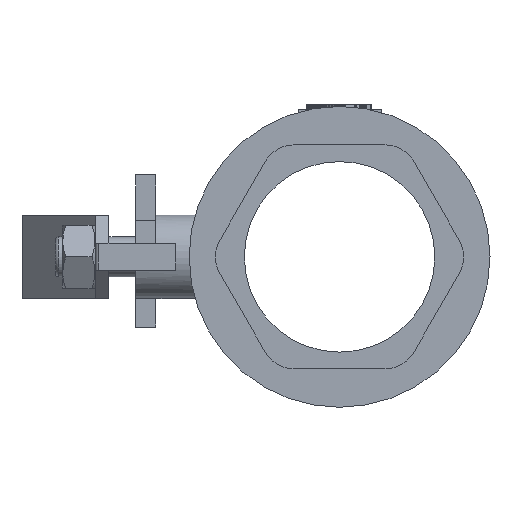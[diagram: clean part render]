
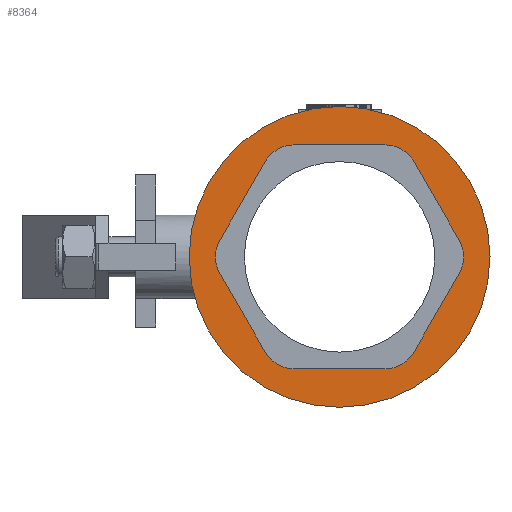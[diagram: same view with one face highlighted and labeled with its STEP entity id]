
A CAD part, left-side view. The second image highlights one B-rep face of the part: STEP entity #8364.
In plain terms, the highlighted planar face has unit normal (-1, 0, 0).
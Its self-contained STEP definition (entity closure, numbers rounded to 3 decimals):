
#8364=ADVANCED_FACE('',(#15007,#15009),#15011,.T.);
#15007=FACE_BOUND('',#15008,.T.);
#15008=EDGE_LOOP('',(#20477,#20478));
#15009=FACE_BOUND('',#15010,.T.);
#15010=EDGE_LOOP('',(#20479,#20480,#20481,#20482,#20483,#20484,#20485,#20486,#20487,
#20488,#20489,#20490));
#15011=PLANE('',#15012);
#15012=AXIS2_PLACEMENT_3D('',#15013,#15014,#15015);
#15013=CARTESIAN_POINT('',(3034.125,1465.062,0.));
#15014=DIRECTION('',(-1.,0.,0.));
#15015=DIRECTION('',(0.,0.,1.));
#20477=ORIENTED_EDGE('',*,*,#23258,.F.);
#20478=ORIENTED_EDGE('',*,*,#23259,.F.);
#20479=ORIENTED_EDGE('',*,*,#23208,.T.);
#20480=ORIENTED_EDGE('',*,*,#23222,.T.);
#20481=ORIENTED_EDGE('',*,*,#23219,.T.);
#20482=ORIENTED_EDGE('',*,*,#23215,.T.);
#20483=ORIENTED_EDGE('',*,*,#23213,.T.);
#20484=ORIENTED_EDGE('',*,*,#23203,.T.);
#20485=ORIENTED_EDGE('',*,*,#23201,.T.);
#20486=ORIENTED_EDGE('',*,*,#23197,.T.);
#20487=ORIENTED_EDGE('',*,*,#23195,.T.);
#20488=ORIENTED_EDGE('',*,*,#23191,.T.);
#20489=ORIENTED_EDGE('',*,*,#23189,.T.);
#20490=ORIENTED_EDGE('',*,*,#23211,.T.);
#23189=EDGE_CURVE('',#27647,#27645,#27648,.T.);
#23191=EDGE_CURVE('',#27650,#27647,#27651,.T.);
#23195=EDGE_CURVE('',#27657,#27650,#27658,.T.);
#23197=EDGE_CURVE('',#27660,#27657,#27661,.T.);
#23201=EDGE_CURVE('',#27667,#27660,#27668,.T.);
#23203=EDGE_CURVE('',#27670,#27667,#27671,.T.);
#23208=EDGE_CURVE('',#27680,#27678,#27681,.T.);
#23211=EDGE_CURVE('',#27645,#27680,#27684,.T.);
#23213=EDGE_CURVE('',#27687,#27670,#27688,.T.);
#23215=EDGE_CURVE('',#27690,#27687,#27691,.T.);
#23219=EDGE_CURVE('',#27697,#27690,#27698,.T.);
#23222=EDGE_CURVE('',#27678,#27697,#27701,.T.);
#23258=EDGE_CURVE('',#27766,#27767,#27768,.T.);
#23259=EDGE_CURVE('',#27767,#27766,#27769,.T.);
#27645=VERTEX_POINT('',#38282);
#27647=VERTEX_POINT('',#38286);
#27648=CIRCLE('',#38287,10.);
#27650=VERTEX_POINT('',#38294);
#27651=LINE('',#38295,#38296);
#27657=VERTEX_POINT('',#38310);
#27658=CIRCLE('',#38311,10.);
#27660=VERTEX_POINT('',#38318);
#27661=LINE('',#38319,#38320);
#27667=VERTEX_POINT('',#38334);
#27668=CIRCLE('',#38335,10.);
#27670=VERTEX_POINT('',#38342);
#27671=LINE('',#38343,#38344);
#27678=VERTEX_POINT('',#38359);
#27680=VERTEX_POINT('',#38363);
#27681=CIRCLE('',#38364,10.);
#27684=LINE('',#38374,#38375);
#27687=VERTEX_POINT('',#38382);
#27688=CIRCLE('',#38383,10.);
#27690=VERTEX_POINT('',#38390);
#27691=LINE('',#38391,#38392);
#27697=VERTEX_POINT('',#38406);
#27698=CIRCLE('',#38407,10.);
#27701=LINE('',#38417,#38418);
#27766=VERTEX_POINT('',#38583);
#27767=VERTEX_POINT('',#38584);
#27768=CIRCLE('',#38585,45.);
#27769=CIRCLE('',#38589,45.);
#38282=CARTESIAN_POINT('',(3034.125,1406.494,-33.5));
#38286=CARTESIAN_POINT('',(3034.125,1397.834,-28.5));
#38287=AXIS2_PLACEMENT_3D('',#38288,#38289,#38290);
#38288=CARTESIAN_POINT('',(3034.125,1406.494,-23.5));
#38289=DIRECTION('',(1.,0.,0.));
#38290=DIRECTION('',(0.,-0.866,-0.5));
#38294=CARTESIAN_POINT('',(3034.125,1384.266,-5.));
#38295=CARTESIAN_POINT('',(3034.125,1384.266,-5.));
#38296=VECTOR('',#38297,1.);
#38297=DIRECTION('',(0.,0.5,-0.866));
#38310=CARTESIAN_POINT('',(3034.125,1384.266,5.));
#38311=AXIS2_PLACEMENT_3D('',#38312,#38313,#38314);
#38312=CARTESIAN_POINT('',(3034.125,1392.926,0.));
#38313=DIRECTION('',(1.,0.,0.));
#38314=DIRECTION('',(0.,-0.866,0.5));
#38318=CARTESIAN_POINT('',(3034.125,1397.834,28.5));
#38319=CARTESIAN_POINT('',(3034.125,1397.834,28.5));
#38320=VECTOR('',#38321,1.);
#38321=DIRECTION('',(0.,-0.5,-0.866));
#38334=CARTESIAN_POINT('',(3034.125,1406.494,33.5));
#38335=AXIS2_PLACEMENT_3D('',#38336,#38337,#38338);
#38336=CARTESIAN_POINT('',(3034.125,1406.494,23.5));
#38337=DIRECTION('',(1.,0.,0.));
#38338=DIRECTION('',(0.,0.,1.));
#38342=CARTESIAN_POINT('',(3034.125,1433.629,33.5));
#38343=CARTESIAN_POINT('',(3034.125,1433.629,33.5));
#38344=VECTOR('',#38345,1.);
#38345=DIRECTION('',(0.,-1.,0.));
#38359=CARTESIAN_POINT('',(3034.125,1442.29,-28.5));
#38363=CARTESIAN_POINT('',(3034.125,1433.629,-33.5));
#38364=AXIS2_PLACEMENT_3D('',#38365,#38366,#38367);
#38365=CARTESIAN_POINT('',(3034.125,1433.629,-23.5));
#38366=DIRECTION('',(1.,0.,0.));
#38367=DIRECTION('',(0.,0.,-1.));
#38374=CARTESIAN_POINT('',(3034.125,1406.494,-33.5));
#38375=VECTOR('',#38376,1.);
#38376=DIRECTION('',(0.,1.,0.));
#38382=CARTESIAN_POINT('',(3034.125,1442.29,28.5));
#38383=AXIS2_PLACEMENT_3D('',#38384,#38385,#38386);
#38384=CARTESIAN_POINT('',(3034.125,1433.629,23.5));
#38385=DIRECTION('',(1.,0.,0.));
#38386=DIRECTION('',(0.,0.866,0.5));
#38390=CARTESIAN_POINT('',(3034.125,1455.857,5.));
#38391=CARTESIAN_POINT('',(3034.125,1455.857,5.));
#38392=VECTOR('',#38393,1.);
#38393=DIRECTION('',(0.,-0.5,0.866));
#38406=CARTESIAN_POINT('',(3034.125,1455.857,-5.));
#38407=AXIS2_PLACEMENT_3D('',#38408,#38409,#38410);
#38408=CARTESIAN_POINT('',(3034.125,1447.197,0.));
#38409=DIRECTION('',(1.,0.,0.));
#38410=DIRECTION('',(0.,0.866,-0.5));
#38417=CARTESIAN_POINT('',(3034.125,1442.29,-28.5));
#38418=VECTOR('',#38419,1.);
#38419=DIRECTION('',(0.,0.5,0.866));
#38583=CARTESIAN_POINT('',(3034.125,1375.062,0.));
#38584=CARTESIAN_POINT('',(3034.125,1465.062,0.));
#38585=AXIS2_PLACEMENT_3D('',#38586,#38587,#38588);
#38586=CARTESIAN_POINT('',(3034.125,1420.062,0.));
#38587=DIRECTION('',(1.,0.,0.));
#38588=DIRECTION('',(0.,-1.,0.));
#38589=AXIS2_PLACEMENT_3D('',#38590,#38591,#38592);
#38590=CARTESIAN_POINT('',(3034.125,1420.062,0.));
#38591=DIRECTION('',(1.,0.,0.));
#38592=DIRECTION('',(0.,1.,0.));
